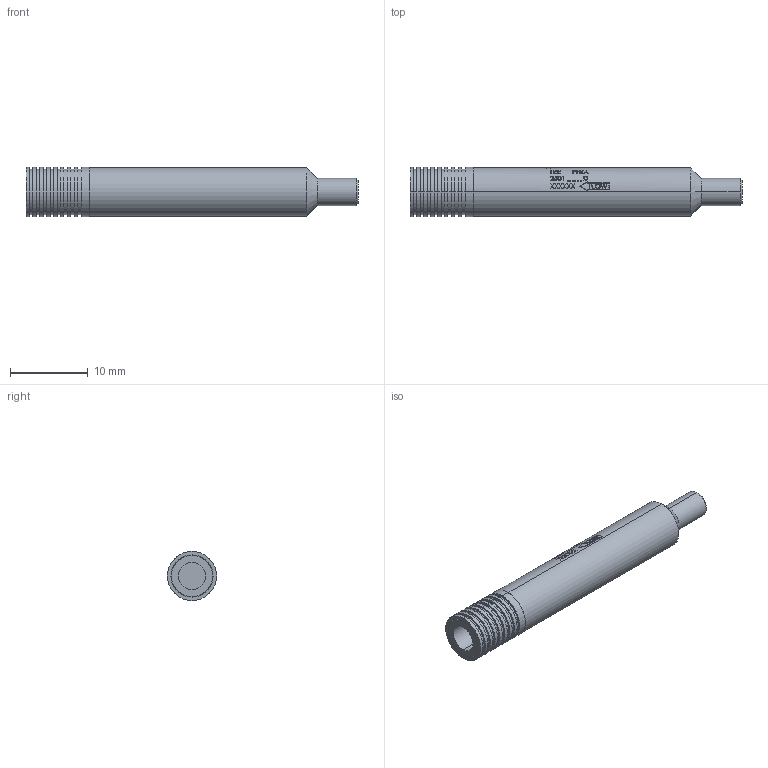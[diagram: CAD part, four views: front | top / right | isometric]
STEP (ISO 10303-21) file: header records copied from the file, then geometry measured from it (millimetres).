
FILE_DESCRIPTION (( 'STEP AP214' ), '1' );
FILE_NAME ('3DPHTA2501---D.STEP', '2021-04-01T17:29:15', ( '' ), ( '' ), 'SwSTEP 2.0', 'SolidWorks 2019', '' );
FILE_SCHEMA (( 'AUTOMOTIVE_DESIGN' ));
Length unit declared in the file: inch
Products named in the file (1): 3DPHTA2501---D
Bounding box: 42.8 x 6.35 x 6.35 mm (x, y, z)
Volume: 1096.9 mm3; surface area: 1012.8 mm2
Topology: 1 solids, 1 shells, 391 faces, 1000 edges, 664 vertices
Faces by surface type: plane 177, bspline 132, cylinder 76, cone 6
Entity records: 18609 total; most frequent: CARTESIAN_POINT 5980, ORIENTED_EDGE 2000, DIRECTION 1267, EDGE_CURVE 1000, VERTEX_POINT 664, AXIS2_PLACEMENT_3D 456, B_SPLINE_CURVE_WITH_KNOTS 449, EDGE_LOOP 444
